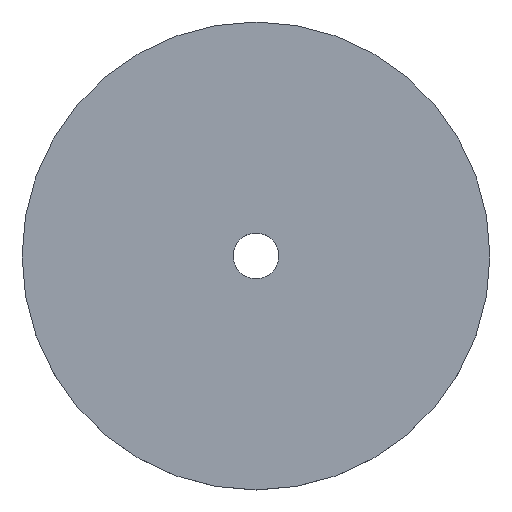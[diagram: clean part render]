
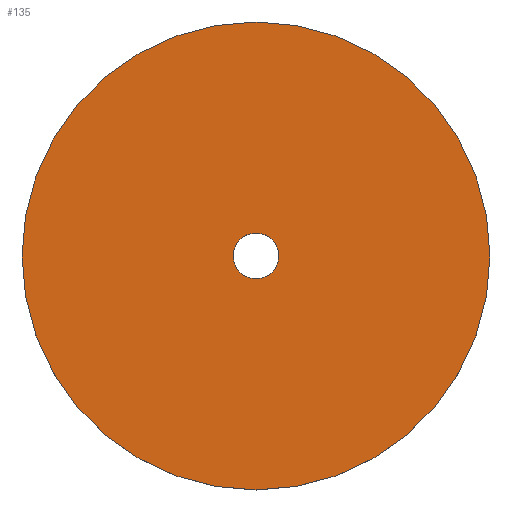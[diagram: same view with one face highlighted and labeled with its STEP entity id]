
A CAD part, top view. The second image highlights one B-rep face of the part: STEP entity #135.
In plain terms, the highlighted planar face has unit normal (0, 0, 1).
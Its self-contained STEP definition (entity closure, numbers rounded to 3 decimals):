
#84=CARTESIAN_POINT('',(2.45,0.,3.2));
#85=VERTEX_POINT('',#84);
#86=CARTESIAN_POINT('',(0.0,0.0,3.2));
#87=DIRECTION('',(0.0,0.0,-1.0));
#88=DIRECTION('',(-1.0,0.0,0.0));
#89=AXIS2_PLACEMENT_3D('',#86,#87,#88);
#90=CIRCLE('',#89,2.45);
#91=EDGE_CURVE('',#85,#85,#90,.T.);
#101=CARTESIAN_POINT('',(25.0,0.,3.2));
#102=VERTEX_POINT('',#101);
#103=CARTESIAN_POINT('',(0.0,0.0,3.2));
#104=DIRECTION('',(0.0,0.0,-1.0));
#105=DIRECTION('',(-1.0,0.0,0.0));
#106=AXIS2_PLACEMENT_3D('',#103,#104,#105);
#107=CIRCLE('',#106,25.0);
#108=EDGE_CURVE('',#102,#102,#107,.T.);
#124=CARTESIAN_POINT('',(0.0,0.0,3.2));
#125=DIRECTION('',(0.0,0.0,-1.0));
#126=DIRECTION('',(-1.0,0.0,0.0));
#127=AXIS2_PLACEMENT_3D('',#124,#125,#126);
#128=PLANE('',#127);
#129=ORIENTED_EDGE('',*,*,#108,.F.);
#130=EDGE_LOOP('',(#129));
#131=FACE_OUTER_BOUND('',#130,.T.);
#132=ORIENTED_EDGE('',*,*,#91,.T.);
#133=EDGE_LOOP('',(#132));
#134=FACE_BOUND('',#133,.T.);
#135=ADVANCED_FACE('',(#131,#134),#128,.F.);
